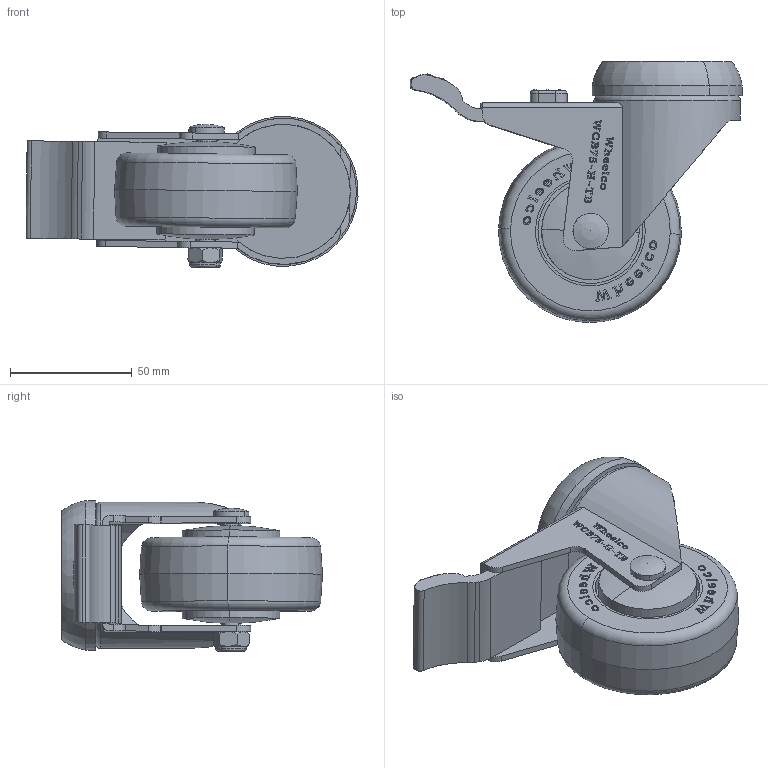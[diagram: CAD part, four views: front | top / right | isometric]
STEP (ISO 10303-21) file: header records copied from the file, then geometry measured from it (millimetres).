
FILE_DESCRIPTION (( 'STEP AP214' ), '1' );
FILE_NAME ('WCB75-H-TB.step', '2024-01-12T00:40:55', ( '' ), ( '' ), 'SwSTEP 2.0', 'SolidWorks 2022', '' );
FILE_SCHEMA (( 'AUTOMOTIVE_DESIGN' ));
Length unit declared in the file: millimetre
Products named in the file (8): WCB75; WCB75-H-TB; WC75-H-TB; WC-M8x55; M8Nyloc; 61.5 TOP CAP; break step; BREAK
Assembly tree (7 placements, depth 2):
  WCB75-H-TB
    WC75-H-TB
    61.5 TOP CAP
    break step
    BREAK
    WCB75
    WC-M8x55
    M8Nyloc
Bounding box: 136.09 x 106.98 x 61.86 mm (x, y, z)
Volume: 219496.7 mm3; surface area: 62669.7 mm2
Topology: 7 solids, 7 shells, 1041 faces, 2826 edges, 1871 vertices
Faces by surface type: plane 576, bspline 327, cylinder 99, cone 18, torus 16, sphere 5
Entity records: 53239 total; most frequent: CARTESIAN_POINT 28429, ORIENTED_EDGE 5646, DIRECTION 3695, EDGE_CURVE 2823, VECTOR 1875, LINE 1875, VERTEX_POINT 1869, EDGE_LOOP 1126
